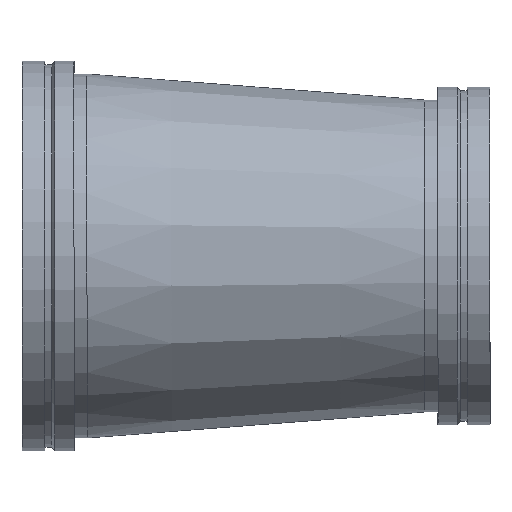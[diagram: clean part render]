
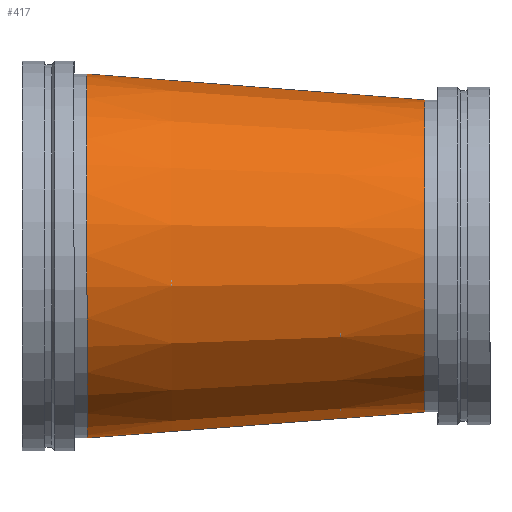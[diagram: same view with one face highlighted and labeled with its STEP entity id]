
A CAD part, top view. The second image highlights one B-rep face of the part: STEP entity #417.
In plain terms, the highlighted conical face has half-angle 4.399 degrees and reference radius 330.2 mm.
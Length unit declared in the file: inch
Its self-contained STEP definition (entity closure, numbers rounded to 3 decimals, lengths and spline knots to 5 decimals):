
#46=CONICAL_SURFACE('',#475,13.,0.077);
#54=LINE('',#739,#68);
#68=VECTOR('',#587,13.);
#101=FACE_OUTER_BOUND('',#124,.T.);
#124=EDGE_LOOP('',(#315,#316,#317,#318,#319,#320));
#155=CIRCLE('',#473,14.);
#156=CIRCLE('',#474,14.);
#157=CIRCLE('',#476,12.);
#158=CIRCLE('',#477,12.);
#195=VERTEX_POINT('',#729);
#196=VERTEX_POINT('',#730);
#197=VERTEX_POINT('',#735);
#198=VERTEX_POINT('',#736);
#239=EDGE_CURVE('',#195,#196,#155,.T.);
#240=EDGE_CURVE('',#196,#195,#156,.T.);
#242=EDGE_CURVE('',#197,#198,#157,.T.);
#243=EDGE_CURVE('',#198,#197,#158,.T.);
#244=EDGE_CURVE('',#198,#196,#54,.T.);
#315=ORIENTED_EDGE('',*,*,#242,.F.);
#316=ORIENTED_EDGE('',*,*,#243,.F.);
#317=ORIENTED_EDGE('',*,*,#244,.T.);
#318=ORIENTED_EDGE('',*,*,#240,.T.);
#319=ORIENTED_EDGE('',*,*,#239,.T.);
#320=ORIENTED_EDGE('',*,*,#244,.F.);
#417=ADVANCED_FACE('',(#101),#46,.T.);
#473=AXIS2_PLACEMENT_3D('',#731,#576,#577);
#474=AXIS2_PLACEMENT_3D('',#732,#578,#579);
#475=AXIS2_PLACEMENT_3D('',#734,#581,#582);
#476=AXIS2_PLACEMENT_3D('',#737,#583,#584);
#477=AXIS2_PLACEMENT_3D('',#738,#585,#586);
#576=DIRECTION('center_axis',(1.,0.,0.));
#577=DIRECTION('ref_axis',(0.,0.,-1.));
#578=DIRECTION('center_axis',(1.,0.,0.));
#579=DIRECTION('ref_axis',(0.,0.,-1.));
#581=DIRECTION('center_axis',(-1.,0.,0.));
#582=DIRECTION('ref_axis',(0.,1.,0.));
#583=DIRECTION('center_axis',(1.,0.,0.));
#584=DIRECTION('ref_axis',(0.,0.,-1.));
#585=DIRECTION('center_axis',(1.,0.,0.));
#586=DIRECTION('ref_axis',(0.,0.,-1.));
#587=DIRECTION('',(-0.997,-0.077,0.));
#729=CARTESIAN_POINT('',(5.,14.,0.));
#730=CARTESIAN_POINT('',(5.,-14.,0.));
#731=CARTESIAN_POINT('Origin',(5.,0.,0.));
#732=CARTESIAN_POINT('Origin',(5.,0.,0.));
#734=CARTESIAN_POINT('Origin',(18.,0.,0.));
#735=CARTESIAN_POINT('',(31.,12.,0.));
#736=CARTESIAN_POINT('',(31.,-12.,0.));
#737=CARTESIAN_POINT('Origin',(31.,0.,0.));
#738=CARTESIAN_POINT('Origin',(31.,0.,0.));
#739=CARTESIAN_POINT('',(18.,-13.,0.));
